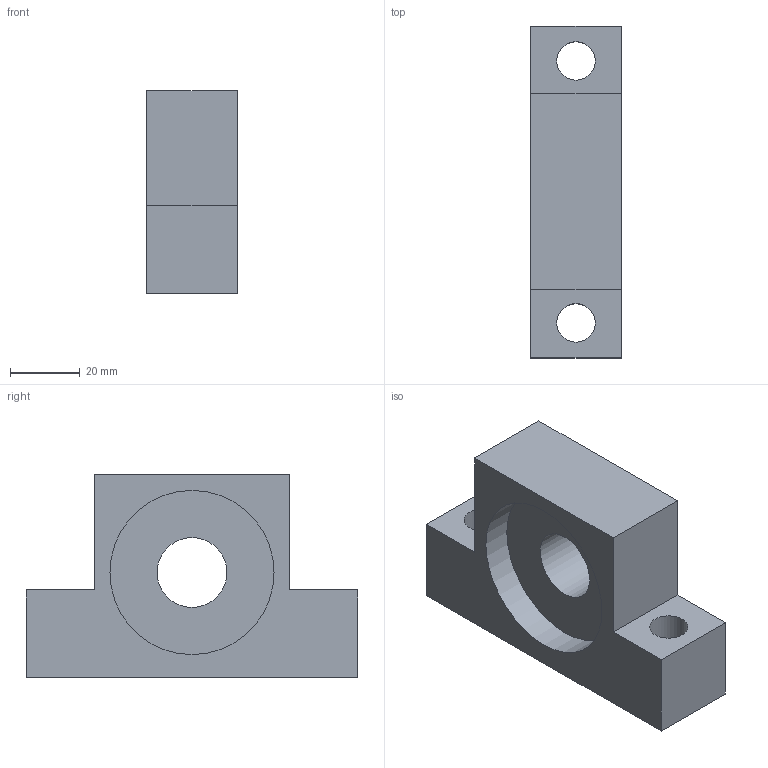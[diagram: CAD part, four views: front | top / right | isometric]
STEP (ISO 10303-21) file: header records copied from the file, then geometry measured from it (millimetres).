
FILE_DESCRIPTION(/* description */ (''),/* implementation_level */ '2;1');
FILE_NAME(/* name */ 'EF20.stp',/* time_stamp */ '2021-01-13T09:31:46+08:00',/* author */ (''),/* organization */ (''),/* preprocessor_version */ 'ST-DEVELOPER v16.7',/* originating_system */ 'SIEMENS PLM Software NX 12.0',/* authorisation */ '');
FILE_SCHEMA (('AUTOMOTIVE_DESIGN { 1 0 10303 214 3 1 1 1 }'));
Length unit declared in the file: millimetre
Products named in the file (3): EF20-SUB; 6204; EF20
Assembly tree (2 placements, depth 2):
  EF20
    6204
    EF20-SUB
Bounding box: 26 x 95 x 58 mm (x, y, z)
Volume: 79828.8 mm3; surface area: 23907.3 mm2
Topology: 2 solids, 2 shells, 17 faces, 41 edges, 28 vertices
Faces by surface type: plane 12, cylinder 5
Full cylindrical faces by diameter (mm): 11 x2, 20 x1, 47 x2
Entity records: 542 total; most frequent: DIRECTION 84, CARTESIAN_POINT 80, ORIENTED_EDGE 68, EDGE_CURVE 34, EDGE_LOOP 30, AXIS2_PLACEMENT_3D 30, VERTEX_POINT 26, FACE_BOUND 25
